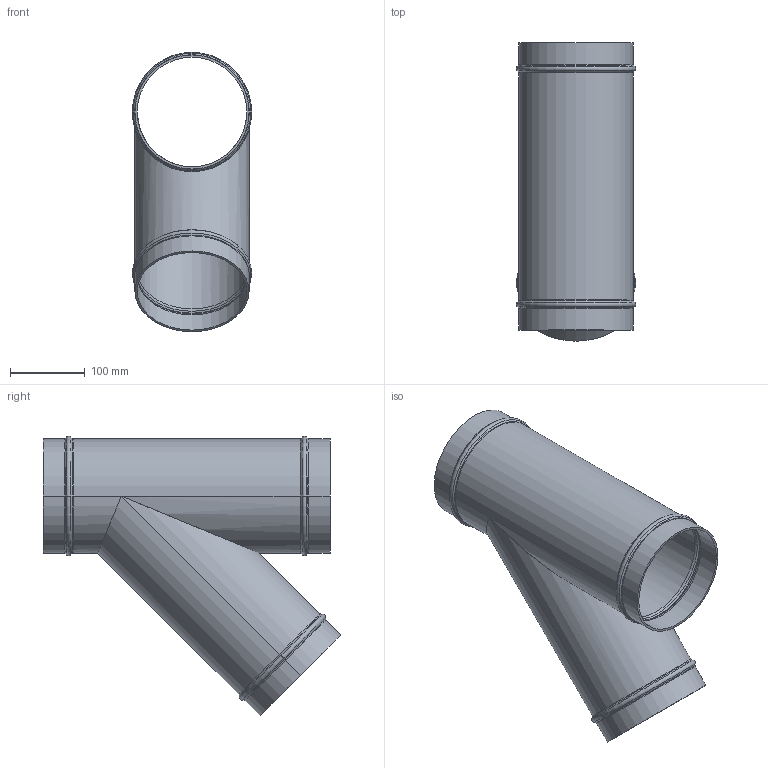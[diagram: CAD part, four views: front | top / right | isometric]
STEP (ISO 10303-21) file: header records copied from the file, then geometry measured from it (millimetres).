
FILE_DESCRIPTION(/* description */ (''),/* implementation_level */ '2;1');
FILE_NAME(/* name */ '9009_stp.stp',/* time_stamp */ '2025-06-20T11:35:50+08:00',/* author */ (''),/* organization */ (''),/* preprocessor_version */ 'ST-DEVELOPER v14',/* originating_system */ 'SIEMENS PLM Software NX 8.0',/* authorisation */ '');
FILE_SCHEMA (('AP203_CONFIGURATION_CONTROLLED_3D_DESIGN_OF_MECHANICAL_PARTS_AND_ASSEMBLIES_MIM_LF { 1 0 10303 403 2 1 2}'));
Length unit declared in the file: millimetre
Products named in the file (1): Admi0BECFFFE4xr7
Bounding box: 160 x 399.52 x 374.5 mm (x, y, z)
Volume: 845633.5 mm3; surface area: 573187.5 mm2
Topology: 2 solids, 2 shells, 89 faces, 192 edges, 104 vertices
Faces by surface type: torus 36, cone 24, cylinder 22, plane 7
Entity records: 2512 total; most frequent: DIRECTION 512, CARTESIAN_POINT 386, ORIENTED_EDGE 384, AXIS2_PLACEMENT_3D 230, EDGE_CURVE 192, CIRCLE 132, VERTEX_POINT 104, EDGE_LOOP 92
